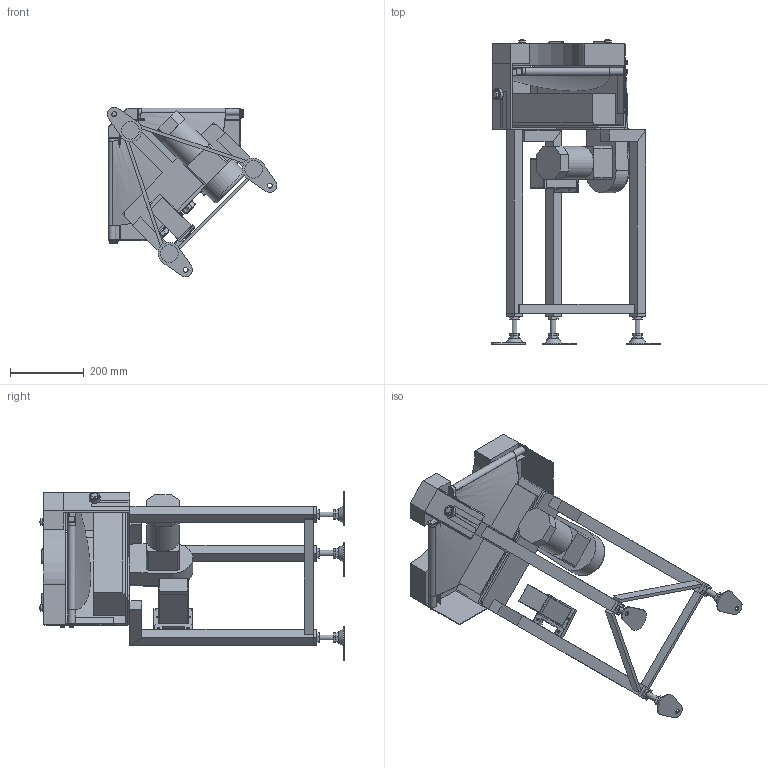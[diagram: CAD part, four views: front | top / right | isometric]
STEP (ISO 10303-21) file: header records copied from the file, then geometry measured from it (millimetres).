
FILE_DESCRIPTION (( 'STEP AP214' ), '1' );
FILE_NAME ('GBC90-UD150-R.STEP', '2022-12-05T23:59:48', ( '' ), ( '' ), 'SwSTEP 2.0', 'SolidWorks 2017', '' );
FILE_SCHEMA (( 'AUTOMOTIVE_DESIGN' ));
Length unit declared in the file: millimetre
Products named in the file (1): GBC90-UD150-R
Bounding box: 461.43 x 827.92 x 461.43 mm (x, y, z)
Volume: 13314692.7 mm3; surface area: 1847973.6 mm2
Topology: 54 solids, 54 shells, 913 faces, 2085 edges, 1337 vertices
Faces by surface type: plane 575, cylinder 185, cone 77, bspline 61, torus 8, sphere 7
Full cylindrical faces by diameter (mm): 4.2 x4, 4.5 x2, 5 x4, 6 x13, 6.4 x4, 7 x3, 8 x1, 9 x2, 10 x6, 12 x1, 12.2 x2, 12.5 x7, 13 x7, 15 x4, 16 x10, 18 x2, 18.4 x1, 20 x6, 21 x1, 22.2 x1, 25 x1, 30 x1, 89 x1
Entity records: 33710 total; most frequent: CARTESIAN_POINT 13612, ORIENTED_EDGE 3850, DIRECTION 3813, EDGE_CURVE 1925, AXIS2_PLACEMENT_3D 1313, VERTEX_POINT 1302, LINE 1187, VECTOR 1187
